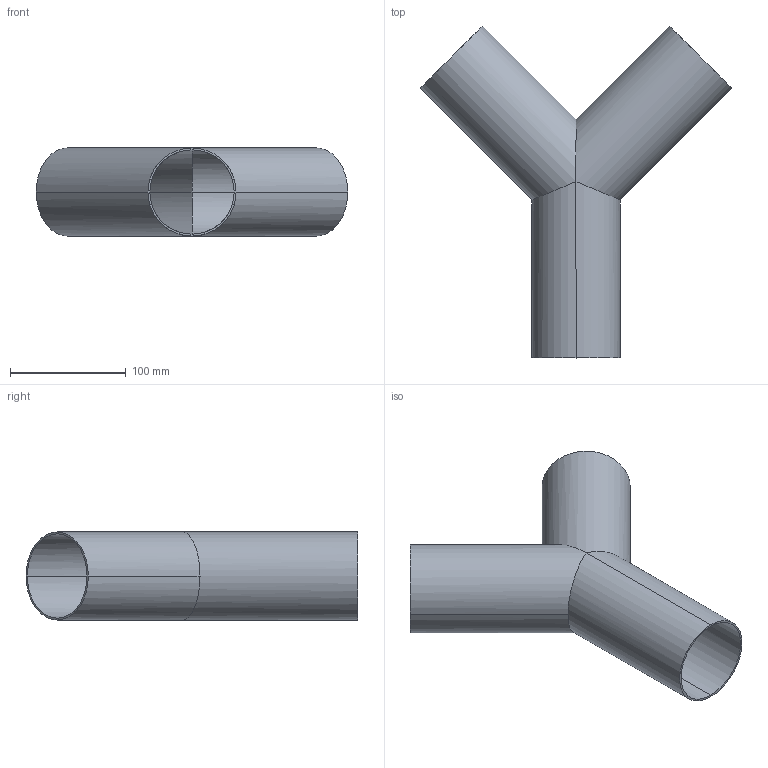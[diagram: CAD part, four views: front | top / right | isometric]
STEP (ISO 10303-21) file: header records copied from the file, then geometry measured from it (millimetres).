
FILE_DESCRIPTION (( 'STEP AP214' ), '1' );
FILE_NAME ('V28WB3.0.STEP', '2025-09-03T13:44:50', ( '' ), ( '' ), 'SwSTEP 2.0', 'SolidWorks 2023', '' );
FILE_SCHEMA (( 'AUTOMOTIVE_DESIGN' ));
Length unit declared in the file: inch
Products named in the file (1): V28WB3.0
Bounding box: 269.41 x 287.1 x 76.2 mm (x, y, z)
Volume: 160005.3 mm3; surface area: 194981.7 mm2
Topology: 1 solids, 1 shells, 15 faces, 36 edges, 22 vertices
Faces by surface type: cylinder 12, plane 3
Entity records: 469 total; most frequent: CARTESIAN_POINT 110, ORIENTED_EDGE 72, DIRECTION 68, EDGE_CURVE 36, AXIS2_PLACEMENT_3D 28, VERTEX_POINT 22, EDGE_LOOP 18, FACE_OUTER_BOUND 15
